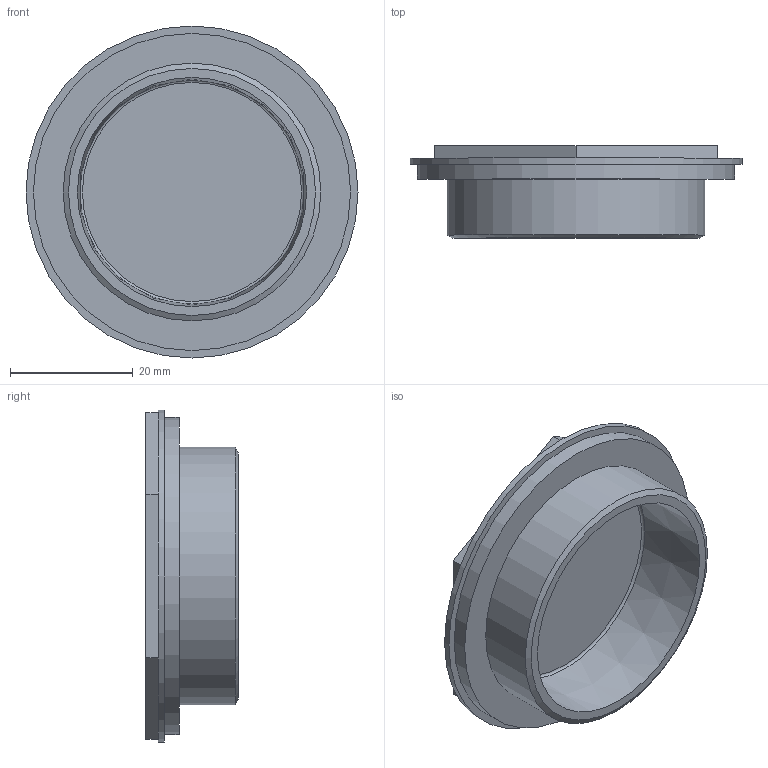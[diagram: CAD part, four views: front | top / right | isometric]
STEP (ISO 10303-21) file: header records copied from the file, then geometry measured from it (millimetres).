
FILE_DESCRIPTION( ( 'STEP AP203' ), '1' );
FILE_NAME( 'C:/Temp/Ganter_Step_05_03_2020/data/3_5/tlt/Oil Level Sight Glass TLT-G11_4.stp', '2020-03-12T13:43:33', ( 'License CC BY-ND 4.0' ), ( 'CADENAS' ), ' ', 'PARTsolutions', ' ' );
FILE_SCHEMA( ( 'CONFIG_CONTROL_DESIGN' ) );
Length unit declared in the file: millimetre
Products named in the file (1): _Oil Level Sight Glass TLT-G11/4
Bounding box: 54 x 15 x 54 mm (x, y, z)
Volume: 9228.2 mm3; surface area: 8127.8 mm2
Topology: 1 solids, 1 shells, 20 faces, 38 edges, 25 vertices
Faces by surface type: plane 13, cone 3, cylinder 3, torus 1
Full cylindrical faces by diameter (mm): 41.91 x1, 51.582 x1, 54 x1
Entity records: 506 total; most frequent: DIRECTION 84, CARTESIAN_POINT 75, ORIENTED_EDGE 60, AXIS2_PLACEMENT_3D 33, EDGE_LOOP 32, EDGE_CURVE 30, FACE_OUTER_BOUND 24, VERTEX_POINT 24
